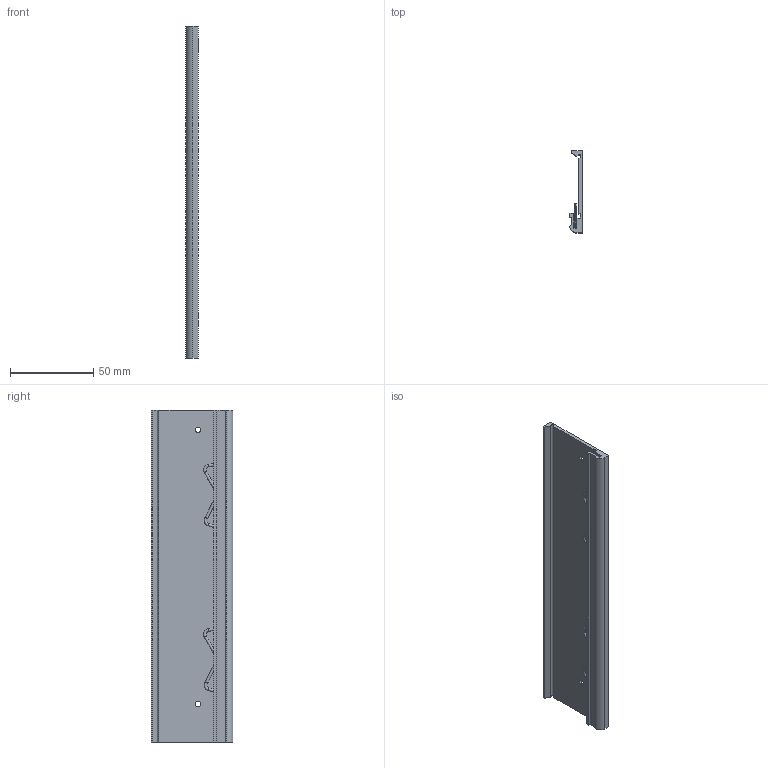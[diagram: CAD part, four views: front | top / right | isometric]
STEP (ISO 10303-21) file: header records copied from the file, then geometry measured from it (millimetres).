
FILE_DESCRIPTION((''),'2;1');
FILE_NAME('DIN-RAIL-8SLOT','2007-01-26T',('chrisj'),(''),'PRO/ENGINEER BY PARAMETRIC TECHNOLOGY CORPORATION, 2006080','PRO/ENGINEER BY PARAMETRIC TECHNOLOGY CORPORATION, 2006080','');
FILE_SCHEMA(('AUTOMOTIVE_DESIGN_CC2 { 1 2 10303 214 -1 1 5 2 }'));
Length unit declared in the file: inch
Products named in the file (1): DIN-RAIL-8SLOT
Bounding box: 7.49 x 49.33 x 199.9 mm (x, y, z)
Volume: 28134.3 mm3; surface area: 29340.4 mm2
Topology: 1 solids, 1 shells, 88 faces, 208 edges, 128 vertices
Faces by surface type: cylinder 39, plane 29, torus 20
Entity records: 2914 total; most frequent: CARTESIAN_POINT 798, DIRECTION 456, ORIENTED_EDGE 416, EDGE_CURVE 208, AXIS2_PLACEMENT_3D 180, VERTEX_POINT 128, EDGE_LOOP 98, VECTOR 96
